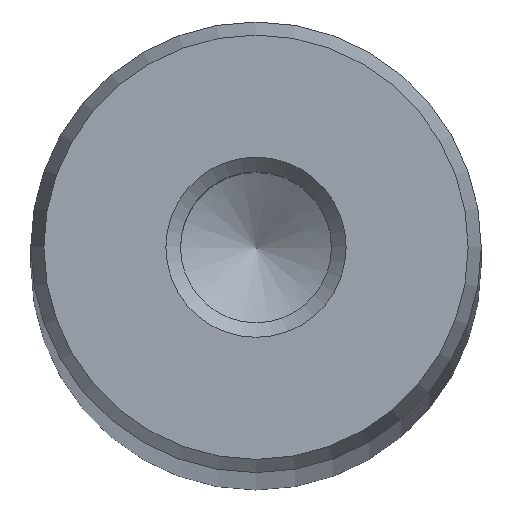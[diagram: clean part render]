
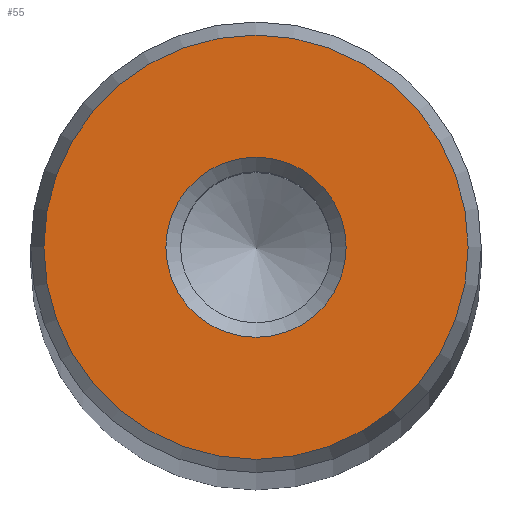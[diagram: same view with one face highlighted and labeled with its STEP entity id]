
A CAD part, top view. The second image highlights one B-rep face of the part: STEP entity #55.
In plain terms, the highlighted planar face has unit normal (0, 0, 1).
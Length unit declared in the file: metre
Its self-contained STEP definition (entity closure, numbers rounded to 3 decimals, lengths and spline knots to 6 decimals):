
#55 = ADVANCED_FACE( '', ( #116, #117 ), #118, .T. );
#116 = FACE_OUTER_BOUND( '', #175, .T. );
#117 = FACE_BOUND( '', #176, .T. );
#118 = PLANE( '', #177 );
#175 = EDGE_LOOP( '', ( #246 ) );
#176 = EDGE_LOOP( '', ( #247 ) );
#177 = AXIS2_PLACEMENT_3D( '', #248, #249, #250 );
#246 = ORIENTED_EDGE( '', *, *, #277, .T. );
#247 = ORIENTED_EDGE( '', *, *, #292, .T. );
#248 = CARTESIAN_POINT( '', ( 0., 0., 0.556 ) );
#249 = DIRECTION( '', ( 0., 0., 1. ) );
#250 = DIRECTION( '', ( 1., 0., 0. ) );
#277 = EDGE_CURVE( '', #305, #305, #306, .T. );
#292 = EDGE_CURVE( '', #328, #328, #329, .T. );
#305 = VERTEX_POINT( '', #342 );
#306 = CIRCLE( '', #343, 0.011772 );
#328 = VERTEX_POINT( '', #365 );
#329 = CIRCLE( '', #366, 0.005 );
#342 = CARTESIAN_POINT( '', ( 0.011772, 0., 0.556 ) );
#343 = AXIS2_PLACEMENT_3D( '', #379, #380, #381 );
#365 = CARTESIAN_POINT( '', ( 0.005, 0., 0.556 ) );
#366 = AXIS2_PLACEMENT_3D( '', #403, #404, #405 );
#379 = CARTESIAN_POINT( '', ( 0., 0., 0.556 ) );
#380 = DIRECTION( '', ( 0., 0., 1. ) );
#381 = DIRECTION( '', ( 1., 0., 0. ) );
#403 = CARTESIAN_POINT( '', ( 0., 0., 0.556 ) );
#404 = DIRECTION( '', ( 0., 0., -1. ) );
#405 = DIRECTION( '', ( 1., 0., 0. ) );
